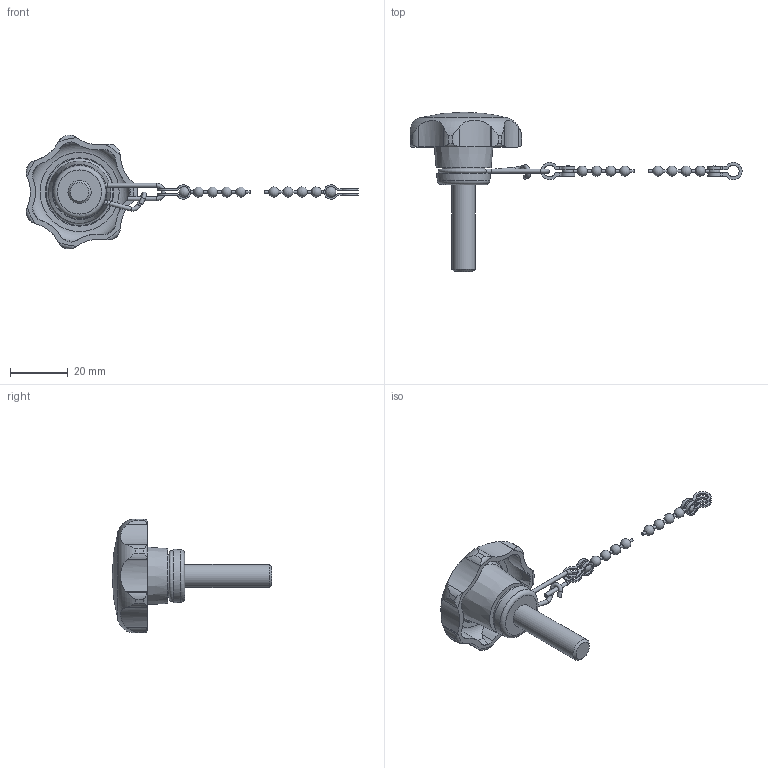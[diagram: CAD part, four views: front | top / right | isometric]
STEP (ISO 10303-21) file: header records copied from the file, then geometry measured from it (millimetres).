
FILE_DESCRIPTION( ( 'STEP AP203' ), '1' );
FILE_NAME( 'C:/Temp/Ganter_Step_05_03_2020/data/2_2/gn_6336_13/gn_6336_13_2/Star knob GN 6336.13-40-M8-30-K.stp', '2020-03-05T12:12:21', ( 'License CC BY-ND 4.0' ), ( 'CADENAS' ), ' ', 'PARTsolutions', ' ' );
FILE_SCHEMA( ( 'CONFIG_CONTROL_DESIGN' ) );
Length unit declared in the file: millimetre
Products named in the file (3): Star knob GN 6336.13-40-M8-30-K; _Star knob GN 6336.13-40-M8-30-K 6; _Star knob GN 111.5-200-14 k2
Assembly tree (2 placements, depth 2):
  Star knob GN 6336.13-40-M8-30-K
    _Star knob GN 6336.13-40-M8-30-K 6
    _Star knob GN 111.5-200-14 k2
Bounding box: 114.5 x 55 x 39.31 mm (x, y, z)
Volume: 13060.7 mm3; surface area: 7132.2 mm2
Topology: 2 solids, 2 shells, 184 faces, 527 edges, 341 vertices
Faces by surface type: cylinder 115, plane 29, torus 18, sphere 11, cone 11
Full cylindrical faces by diameter (mm): 0.9 x10, 1.4 x5, 8 x1, 14.7 x1
Entity records: 6592 total; most frequent: CARTESIAN_POINT 1993, ORIENTED_EDGE 928, DIRECTION 924, EDGE_CURVE 464, AXIS2_PLACEMENT_3D 388, VERTEX_POINT 329, EDGE_LOOP 234, FACE_OUTER_BOUND 219
